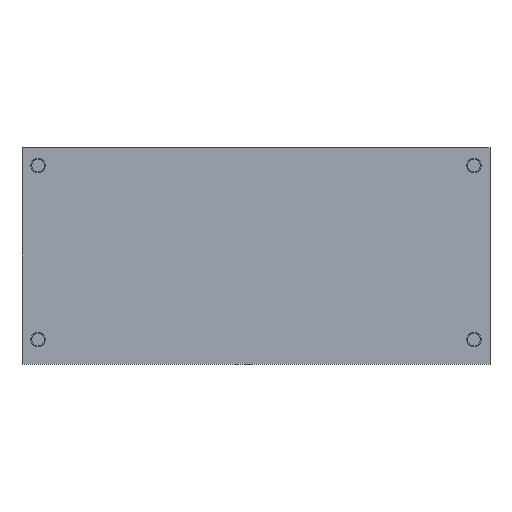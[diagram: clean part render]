
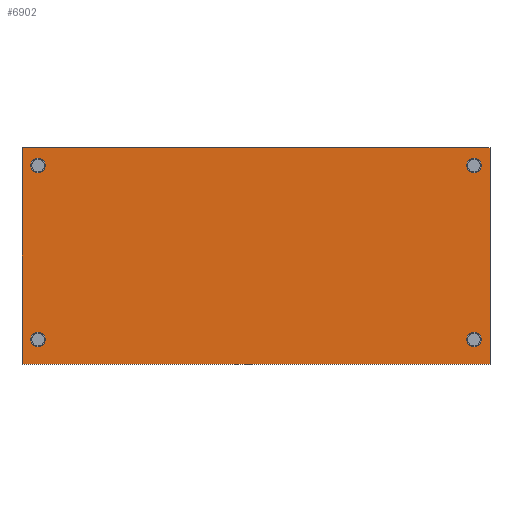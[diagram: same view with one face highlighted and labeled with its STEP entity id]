
A CAD part, front view. The second image highlights one B-rep face of the part: STEP entity #6902.
In plain terms, the highlighted planar face has unit normal (0, -1, 0).
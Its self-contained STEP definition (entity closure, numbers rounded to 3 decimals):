
#52 = EDGE_LOOP ( 'NONE', ( #6762, #4942, #3769, #1629 ) ) ;
#138 = DIRECTION ( 'NONE',  ( 0., 1., 0. ) ) ;
#183 = VERTEX_POINT ( 'NONE', #1295 ) ;
#244 = CARTESIAN_POINT ( 'NONE',  ( 3.1, 0., -37.08 ) ) ;
#250 = EDGE_LOOP ( 'NONE', ( #6570, #5543 ) ) ;
#350 = FACE_OUTER_BOUND ( 'NONE', #52, .T. ) ;
#390 = EDGE_CURVE ( 'NONE', #6527, #183, #4997, .T. ) ;
#400 = VERTEX_POINT ( 'NONE', #2740 ) ;
#424 = CARTESIAN_POINT ( 'NONE',  ( 87.4, 0., -3.43 ) ) ;
#443 = LINE ( 'NONE', #6535, #6351 ) ;
#445 = ORIENTED_EDGE ( 'NONE', *, *, #3027, .T. ) ;
#607 = CIRCLE ( 'NONE', #4651, 1.4 ) ;
#651 = EDGE_CURVE ( 'NONE', #4352, #6309, #1414, .T. ) ;
#695 = LINE ( 'NONE', #5181, #6863 ) ;
#821 = FACE_BOUND ( 'NONE', #4797, .T. ) ;
#840 = CIRCLE ( 'NONE', #1070, 1.4 ) ;
#853 = DIRECTION ( 'NONE',  ( 0., 1., 0. ) ) ;
#899 = CARTESIAN_POINT ( 'NONE',  ( 3.1, 0., -2.03 ) ) ;
#913 = EDGE_CURVE ( 'NONE', #2479, #6706, #695, .T. ) ;
#993 = CARTESIAN_POINT ( 'NONE',  ( 0., 0., 0. ) ) ;
#994 = CARTESIAN_POINT ( 'NONE',  ( 87.4, 0., -3.43 ) ) ;
#1070 = AXIS2_PLACEMENT_3D ( 'NONE', #3625, #3582, #5391 ) ;
#1195 = DIRECTION ( 'NONE',  ( -1., 0., 0. ) ) ;
#1215 = CARTESIAN_POINT ( 'NONE',  ( 0., 0., -41.85 ) ) ;
#1295 = CARTESIAN_POINT ( 'NONE',  ( 3.1, 0., -4.83 ) ) ;
#1414 = CIRCLE ( 'NONE', #4431, 1.4 ) ;
#1475 = EDGE_LOOP ( 'NONE', ( #2196, #4475 ) ) ;
#1562 = DIRECTION ( 'NONE',  ( 0., 0., 1. ) ) ;
#1586 = DIRECTION ( 'NONE',  ( 0., 1., 0. ) ) ;
#1595 = VECTOR ( 'NONE', #1607, 1000. ) ;
#1607 = DIRECTION ( 'NONE',  ( 1., 0., 0. ) ) ;
#1608 = DIRECTION ( 'NONE',  ( 0., 1., 0. ) ) ;
#1629 = ORIENTED_EDGE ( 'NONE', *, *, #4425, .F. ) ;
#1863 = DIRECTION ( 'NONE',  ( 1., 0., 0. ) ) ;
#1900 = LINE ( 'NONE', #6394, #2329 ) ;
#1937 = FACE_BOUND ( 'NONE', #1475, .T. ) ;
#2196 = ORIENTED_EDGE ( 'NONE', *, *, #651, .T. ) ;
#2246 = DIRECTION ( 'NONE',  ( 1., 0., 0. ) ) ;
#2252 = LINE ( 'NONE', #993, #1595 ) ;
#2308 = CIRCLE ( 'NONE', #3820, 1.4 ) ;
#2329 = VECTOR ( 'NONE', #5230, 1000. ) ;
#2479 = VERTEX_POINT ( 'NONE', #3857 ) ;
#2651 = DIRECTION ( 'NONE',  ( 1., 0., 0. ) ) ;
#2740 = CARTESIAN_POINT ( 'NONE',  ( 87.4, 0., -2.03 ) ) ;
#2759 = VERTEX_POINT ( 'NONE', #4646 ) ;
#2906 = AXIS2_PLACEMENT_3D ( 'NONE', #6360, #5854, #1863 ) ;
#3021 = PLANE ( 'NONE',  #2906 ) ;
#3027 = EDGE_CURVE ( 'NONE', #183, #6527, #6202, .T. ) ;
#3192 = AXIS2_PLACEMENT_3D ( 'NONE', #4438, #6643, #2246 ) ;
#3200 = DIRECTION ( 'NONE',  ( 1., 0., 0. ) ) ;
#3231 = DIRECTION ( 'NONE',  ( 1., 0., 0. ) ) ;
#3263 = AXIS2_PLACEMENT_3D ( 'NONE', #6556, #1586, #4382 ) ;
#3391 = CARTESIAN_POINT ( 'NONE',  ( 3.1, 0., -38.48 ) ) ;
#3487 = AXIS2_PLACEMENT_3D ( 'NONE', #6356, #853, #3231 ) ;
#3582 = DIRECTION ( 'NONE',  ( 0., 1., 0. ) ) ;
#3621 = EDGE_CURVE ( 'NONE', #4520, #4034, #2252, .T. ) ;
#3625 = CARTESIAN_POINT ( 'NONE',  ( 87.4, 0., -37.08 ) ) ;
#3769 = ORIENTED_EDGE ( 'NONE', *, *, #3621, .F. ) ;
#3772 = DIRECTION ( 'NONE',  ( 0., 1., 0. ) ) ;
#3820 = AXIS2_PLACEMENT_3D ( 'NONE', #244, #138, #4125 ) ;
#3857 = CARTESIAN_POINT ( 'NONE',  ( 90.5, 0., -41.85 ) ) ;
#4034 = VERTEX_POINT ( 'NONE', #7089 ) ;
#4125 = DIRECTION ( 'NONE',  ( 1., 0., 0. ) ) ;
#4169 = VERTEX_POINT ( 'NONE', #6751 ) ;
#4352 = VERTEX_POINT ( 'NONE', #5841 ) ;
#4382 = DIRECTION ( 'NONE',  ( 1., 0., 0. ) ) ;
#4425 = EDGE_CURVE ( 'NONE', #6706, #4520, #443, .T. ) ;
#4431 = AXIS2_PLACEMENT_3D ( 'NONE', #6874, #3772, #2651 ) ;
#4438 = CARTESIAN_POINT ( 'NONE',  ( 3.1, 0., -3.43 ) ) ;
#4475 = ORIENTED_EDGE ( 'NONE', *, *, #6090, .T. ) ;
#4520 = VERTEX_POINT ( 'NONE', #4995 ) ;
#4646 = CARTESIAN_POINT ( 'NONE',  ( 87.4, 0., -4.83 ) ) ;
#4651 = AXIS2_PLACEMENT_3D ( 'NONE', #424, #5411, #7097 ) ;
#4771 = CIRCLE ( 'NONE', #6854, 1.4 ) ;
#4797 = EDGE_LOOP ( 'NONE', ( #445, #6705 ) ) ;
#4903 = VERTEX_POINT ( 'NONE', #3391 ) ;
#4942 = ORIENTED_EDGE ( 'NONE', *, *, #5873, .F. ) ;
#4995 = CARTESIAN_POINT ( 'NONE',  ( 0., 0., 0. ) ) ;
#4997 = CIRCLE ( 'NONE', #3263, 1.4 ) ;
#5181 = CARTESIAN_POINT ( 'NONE',  ( 90.5, 0., -41.85 ) ) ;
#5230 = DIRECTION ( 'NONE',  ( 0., 0., -1. ) ) ;
#5258 = EDGE_CURVE ( 'NONE', #4169, #4903, #2308, .T. ) ;
#5316 = ORIENTED_EDGE ( 'NONE', *, *, #6986, .T. ) ;
#5391 = DIRECTION ( 'NONE',  ( 1., 0., 0. ) ) ;
#5411 = DIRECTION ( 'NONE',  ( 0., 1., 0. ) ) ;
#5499 = CARTESIAN_POINT ( 'NONE',  ( 87.4, 0., -35.68 ) ) ;
#5543 = ORIENTED_EDGE ( 'NONE', *, *, #5258, .T. ) ;
#5686 = CIRCLE ( 'NONE', #3487, 1.4 ) ;
#5699 = EDGE_LOOP ( 'NONE', ( #5746, #5316 ) ) ;
#5746 = ORIENTED_EDGE ( 'NONE', *, *, #6998, .T. ) ;
#5841 = CARTESIAN_POINT ( 'NONE',  ( 87.4, 0., -38.48 ) ) ;
#5854 = DIRECTION ( 'NONE',  ( 0., 1., 0. ) ) ;
#5873 = EDGE_CURVE ( 'NONE', #4034, #2479, #1900, .T. ) ;
#5924 = EDGE_CURVE ( 'NONE', #4903, #4169, #5686, .T. ) ;
#6090 = EDGE_CURVE ( 'NONE', #6309, #4352, #840, .T. ) ;
#6202 = CIRCLE ( 'NONE', #3192, 1.4 ) ;
#6309 = VERTEX_POINT ( 'NONE', #5499 ) ;
#6351 = VECTOR ( 'NONE', #1562, 1000. ) ;
#6356 = CARTESIAN_POINT ( 'NONE',  ( 3.1, 0., -37.08 ) ) ;
#6360 = CARTESIAN_POINT ( 'NONE',  ( 0., 0., 0. ) ) ;
#6394 = CARTESIAN_POINT ( 'NONE',  ( 90.5, 0., 0. ) ) ;
#6527 = VERTEX_POINT ( 'NONE', #899 ) ;
#6535 = CARTESIAN_POINT ( 'NONE',  ( 0., 0., -41.85 ) ) ;
#6556 = CARTESIAN_POINT ( 'NONE',  ( 3.1, 0., -3.43 ) ) ;
#6570 = ORIENTED_EDGE ( 'NONE', *, *, #5924, .T. ) ;
#6643 = DIRECTION ( 'NONE',  ( 0., 1., 0. ) ) ;
#6705 = ORIENTED_EDGE ( 'NONE', *, *, #390, .T. ) ;
#6706 = VERTEX_POINT ( 'NONE', #1215 ) ;
#6751 = CARTESIAN_POINT ( 'NONE',  ( 3.1, 0., -35.68 ) ) ;
#6762 = ORIENTED_EDGE ( 'NONE', *, *, #913, .F. ) ;
#6838 = FACE_BOUND ( 'NONE', #5699, .T. ) ;
#6854 = AXIS2_PLACEMENT_3D ( 'NONE', #994, #1608, #3200 ) ;
#6863 = VECTOR ( 'NONE', #1195, 1000. ) ;
#6874 = CARTESIAN_POINT ( 'NONE',  ( 87.4, 0., -37.08 ) ) ;
#6902 = ADVANCED_FACE ( 'NONE', ( #6838, #1937, #821, #6951, #350 ), #3021, .F. ) ;
#6951 = FACE_BOUND ( 'NONE', #250, .T. ) ;
#6986 = EDGE_CURVE ( 'NONE', #400, #2759, #4771, .T. ) ;
#6998 = EDGE_CURVE ( 'NONE', #2759, #400, #607, .T. ) ;
#7089 = CARTESIAN_POINT ( 'NONE',  ( 90.5, 0., 0. ) ) ;
#7097 = DIRECTION ( 'NONE',  ( 1., 0., 0. ) ) ;
